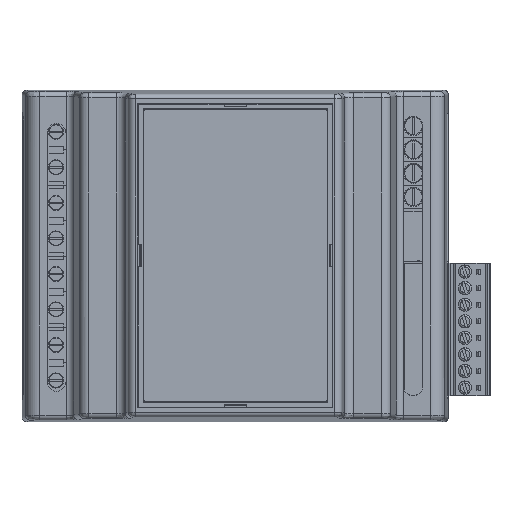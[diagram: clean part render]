
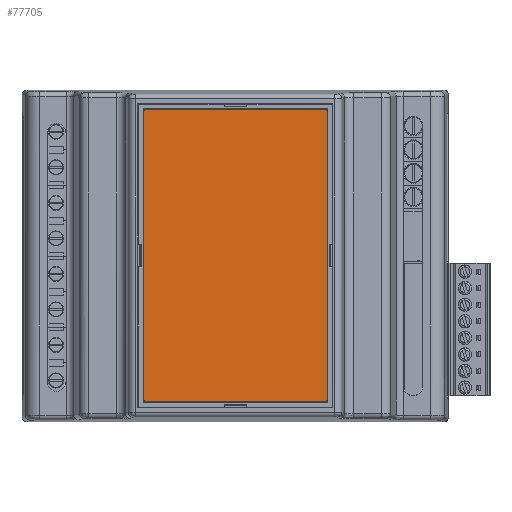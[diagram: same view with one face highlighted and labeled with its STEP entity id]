
A CAD part, top view. The second image highlights one B-rep face of the part: STEP entity #77705.
In plain terms, the highlighted planar face has unit normal (0, 0, 1).
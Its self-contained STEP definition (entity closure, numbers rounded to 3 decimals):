
#2157=CIRCLE('',#82656,0.5);
#2159=CIRCLE('',#82660,0.5);
#2160=CIRCLE('',#82661,0.5);
#2161=CIRCLE('',#82662,0.5);
#8472=PLANE('',#82659);
#12207=FACE_OUTER_BOUND('',#16460,.T.);
#16460=EDGE_LOOP('',(#63019,#63020,#63021,#63022,#63023,#63024,#63025,#63026));
#22691=LINE('',#120602,#30803);
#22694=LINE('',#120608,#30806);
#22695=LINE('',#120612,#30807);
#22696=LINE('',#120616,#30808);
#30803=VECTOR('',#93120,10.);
#30806=VECTOR('',#93125,10.);
#30807=VECTOR('',#93128,10.);
#30808=VECTOR('',#93131,10.);
#39139=VERTEX_POINT('',#120592);
#39140=VERTEX_POINT('',#120593);
#39143=VERTEX_POINT('',#120601);
#39145=VERTEX_POINT('',#120607);
#39146=VERTEX_POINT('',#120609);
#39147=VERTEX_POINT('',#120611);
#39148=VERTEX_POINT('',#120613);
#39149=VERTEX_POINT('',#120615);
#47885=EDGE_CURVE('',#39139,#39140,#2157,.T.);
#47889=EDGE_CURVE('',#39143,#39140,#22691,.T.);
#47892=EDGE_CURVE('',#39139,#39145,#22694,.T.);
#47893=EDGE_CURVE('',#39146,#39145,#2159,.T.);
#47894=EDGE_CURVE('',#39146,#39147,#22695,.T.);
#47895=EDGE_CURVE('',#39148,#39147,#2160,.T.);
#47896=EDGE_CURVE('',#39148,#39149,#22696,.T.);
#47897=EDGE_CURVE('',#39143,#39149,#2161,.T.);
#63019=ORIENTED_EDGE('',*,*,#47885,.F.);
#63020=ORIENTED_EDGE('',*,*,#47892,.T.);
#63021=ORIENTED_EDGE('',*,*,#47893,.F.);
#63022=ORIENTED_EDGE('',*,*,#47894,.T.);
#63023=ORIENTED_EDGE('',*,*,#47895,.F.);
#63024=ORIENTED_EDGE('',*,*,#47896,.T.);
#63025=ORIENTED_EDGE('',*,*,#47897,.F.);
#63026=ORIENTED_EDGE('',*,*,#47889,.T.);
#77705=ADVANCED_FACE('',(#12207),#8472,.T.);
#82656=AXIS2_PLACEMENT_3D('',#120594,#93112,#93113);
#82659=AXIS2_PLACEMENT_3D('',#120606,#93123,#93124);
#82660=AXIS2_PLACEMENT_3D('',#120610,#93126,#93127);
#82661=AXIS2_PLACEMENT_3D('',#120614,#93129,#93130);
#82662=AXIS2_PLACEMENT_3D('',#120617,#93132,#93133);
#93112=DIRECTION('center_axis',(0.,0.,-1.));
#93113=DIRECTION('ref_axis',(-0.707,0.707,0.));
#93120=DIRECTION('',(-1.,0.,0.));
#93123=DIRECTION('center_axis',(0.,0.,1.));
#93124=DIRECTION('ref_axis',(1.,0.,0.));
#93125=DIRECTION('',(0.,-1.,0.));
#93126=DIRECTION('center_axis',(0.,0.,-1.));
#93127=DIRECTION('ref_axis',(-0.707,-0.707,0.));
#93128=DIRECTION('',(1.,0.,0.));
#93129=DIRECTION('center_axis',(0.,0.,-1.));
#93130=DIRECTION('ref_axis',(0.707,-0.707,0.));
#93131=DIRECTION('',(0.,1.,0.));
#93132=DIRECTION('center_axis',(0.,0.,-1.));
#93133=DIRECTION('ref_axis',(0.707,0.707,0.));
#120592=CARTESIAN_POINT('',(29.661,68.325,0.4));
#120593=CARTESIAN_POINT('',(30.161,68.825,0.4));
#120594=CARTESIAN_POINT('Origin',(30.161,68.325,0.4));
#120601=CARTESIAN_POINT('',(67.926,68.825,0.4));
#120602=CARTESIAN_POINT('',(68.426,68.825,0.4));
#120606=CARTESIAN_POINT('Origin',(49.043,37.943,0.4));
#120607=CARTESIAN_POINT('',(29.661,7.56,0.4));
#120608=CARTESIAN_POINT('',(29.661,68.825,0.4));
#120609=CARTESIAN_POINT('',(30.161,7.06,0.4));
#120610=CARTESIAN_POINT('Origin',(30.161,7.56,0.4));
#120611=CARTESIAN_POINT('',(67.926,7.06,0.4));
#120612=CARTESIAN_POINT('',(29.661,7.06,0.4));
#120613=CARTESIAN_POINT('',(68.426,7.56,0.4));
#120614=CARTESIAN_POINT('Origin',(67.926,7.56,0.4));
#120615=CARTESIAN_POINT('',(68.426,68.325,0.4));
#120616=CARTESIAN_POINT('',(68.426,7.06,0.4));
#120617=CARTESIAN_POINT('Origin',(67.926,68.325,0.4));
